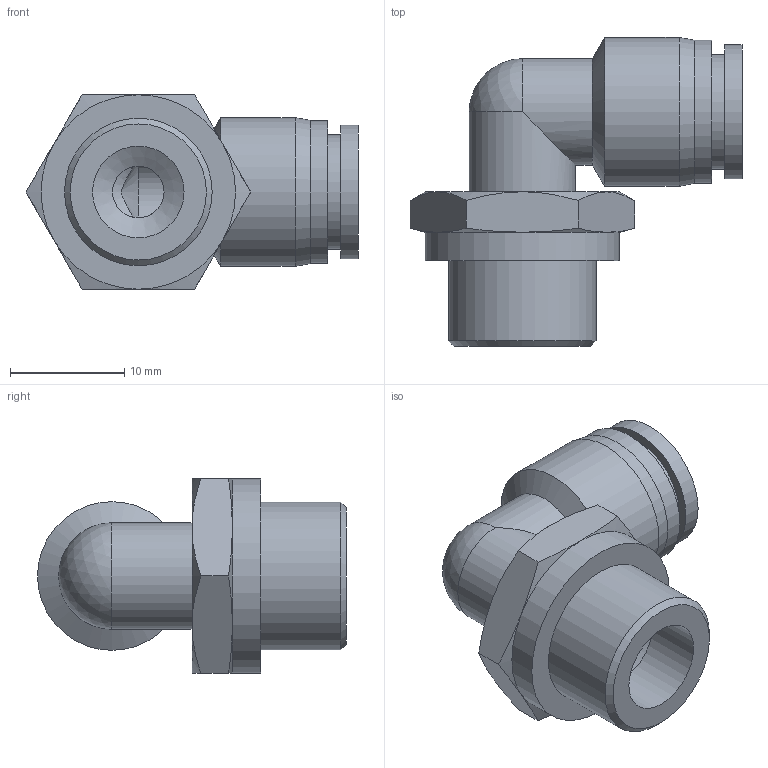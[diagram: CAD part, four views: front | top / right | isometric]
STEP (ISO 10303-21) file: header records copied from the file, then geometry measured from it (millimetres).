
FILE_DESCRIPTION((''),'2;1');
FILE_NAME('S:\UTecnico\ArchivioUT\Speciali Clienti\Speciali KONFIT\Plastica\RP\RP 72\RP721406.stp','2012-05-18T09:46:18',('UT5'),(''),'Autodesk Inventor 2012','Autodesk Inventor 2012','');
FILE_SCHEMA(('AUTOMOTIVE_DESIGN { 1 0 10303 214 1 1 1 1 }'));
Length unit declared in the file: millimetre
Products named in the file (1): RP721406
Bounding box: 29.02 x 27 x 17 mm (x, y, z)
Volume: 3807.6 mm3; surface area: 2784.3 mm2
Topology: 1 solids, 1 shells, 42 faces, 89 edges, 53 vertices
Faces by surface type: cone 18, plane 12, cylinder 11, sphere 1
Full cylindrical faces by diameter (mm): 4.5 x1, 6 x1, 8 x1, 9.3 x2, 10 x1, 11.7 x1, 12.5 x1, 12.9 x1, 13 x1, 17 x1
Entity records: 1059 total; most frequent: CARTESIAN_POINT 256, DIRECTION 162, ORIENTED_EDGE 138, AXIS2_PLACEMENT_3D 78, EDGE_CURVE 69, EDGE_LOOP 63, VERTEX_POINT 48, FACE_OUTER_BOUND 42
